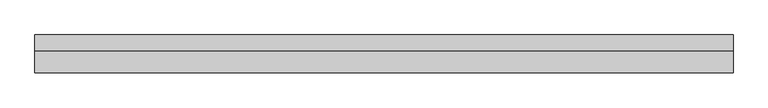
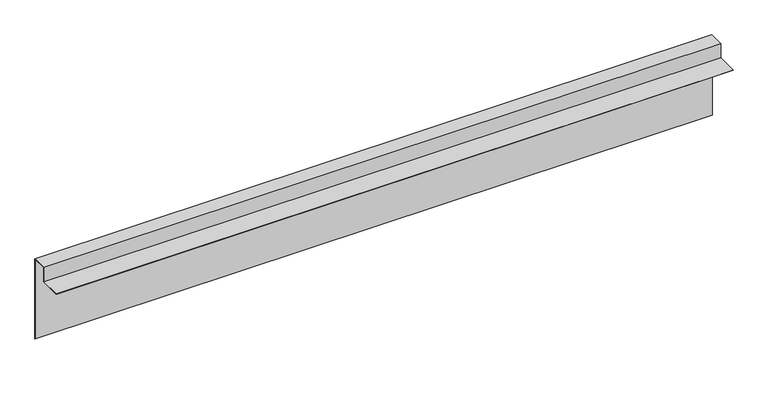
"""IFC4 building model written with IfcOpenShell, lengths in millimetres: proxy geometry, Боковой откос_прямой : Боковой откос_прямой."""

from ifc_helpers import new_model, si_unit, frame, origin, place, context, project, spatial, polyline, outline, extrude, source, transform, mapped, element, save


def generic_models_8da37be1(model_context):
    return source(origin(), model_context, "Body", "SweptSolid", [
        extrude(outline(polyline([(1.0, -19.2), (1.0, 30.0), (51.0, 30.0), (51.0, -247.0), (50.2, -247.0), (50.2, 29.2), (1.8, 29.2), (1.8, -20.0), (-69.0, -20.0), (-69.0, -19.2), (1.0, -19.2)])), frame((0.0, 0.0, 0.0), z_axis=(1.0, 0.0, 0.0), x_axis=(0.0, 1.0, 0.0)), (0.0, 0.0, 1.0), 2210.0),
    ])


if __name__ == "__main__":
    model = new_model("IFC4")
    model_context = context("Model", 3, world=origin())
    ifc_project = project(units=[si_unit("LENGTHUNIT", "METRE", prefix="MILLI")], contexts=[model_context])
    site = spatial("IfcSite", under=ifc_project)
    building = spatial("IfcBuilding", under=site)
    placement = place(None, origin())
    generic_models_shape = generic_models_8da37be1(model_context)
    element("IfcBuildingElementProxy", 1, Name="Боковой откос_прямой : Боковой откос_прямой", ObjectType="Боковой откос_прямой : Боковой откос_прямой", at=placement, inside=building, context=model_context, shape_type="MappedRepresentation", body=[
        mapped(generic_models_shape, transform((0.0, 0.0, 0.0), x_axis=(1.0, 0.0, 0.0), y_axis=(0.0, 1.0, 0.0), z_axis=(0.0, 0.0, 1.0))),
    ])
    save(model, "model.ifc")
